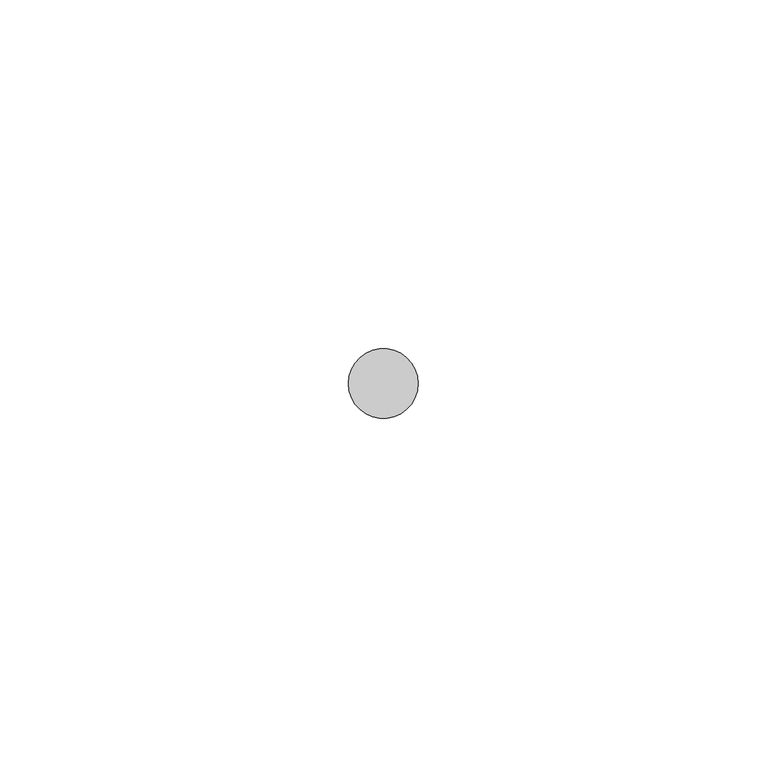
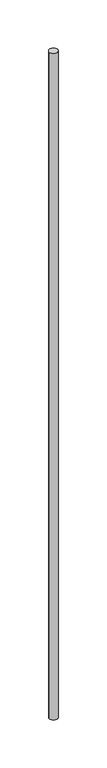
"""IFC4 building model written with IfcOpenShell, lengths in millimetres: cable carrier fitting geometry, x. Tirante para Suportes1 : Tirante para Suportes 2."""

import ifcopenshell
import ifcopenshell.guid

model = None  # the IFC model being written
_history = None  # IfcOwnerHistory: only IFC2X3 demands one
_inside = {}  # id of a spatial element -> (the spatial element, [elements in it])
_under = {}  # id of a project, library or spatial element -> (it, [spatial elements below it])
_declared = {}  # id of a project -> (the project, [libraries it declares])
_typed = {}  # id of a type object -> (the type object, [elements of that type])
_made_of = {}  # id of a material, layer set ... -> (it, [elements and type objects made of it])


def new_model(schema):
    """Start an empty IFC model of exactly this schema.

    Asked for "IFC4X3", IfcOpenShell would pick the latest addendum, in which some entities
    have other attributes; the version numbers below select the first issue.
    IFC2X3 requires an IfcOwnerHistory on every rooted entity: one is made here for all.
    """
    global model, _history
    if schema == "IFC4X3":
        model = ifcopenshell.file(schema_version=(4, 3, 0, 0))
    else:
        model = ifcopenshell.file(schema=schema)
    _inside.clear()
    _under.clear()
    _declared.clear()
    _typed.clear()
    _made_of.clear()
    _history = None
    if model.schema == "IFC2X3":
        org = make("IfcOrganization", Name="unknown")
        user = make(
            "IfcPersonAndOrganization",
            ThePerson=make("IfcPerson", FamilyName="unknown"),
            TheOrganization=org,
        )
        app = make(
            "IfcApplication",
            ApplicationDeveloper=org,
            Version="unknown",
            ApplicationFullName="unknown",
            ApplicationIdentifier="unknown",
        )
        _history = make(
            "IfcOwnerHistory",
            OwningUser=user,
            OwningApplication=app,
            ChangeAction="ADDED",
            CreationDate=0,
        )
    return model


def make(cls, **values):
    """One entity of the class cls with the attributes given. An attribute that is None is left unset."""
    return model.create_entity(
        cls, **{name: value for name, value in values.items() if value is not None}
    )


def rooted(cls, **values):
    """An entity with a GlobalId (a new one), such as an element, a storey or a relation."""
    return make(cls, GlobalId=ifcopenshell.guid.new(), OwnerHistory=_history, **values)


def si_unit(unit_type, name, prefix=None):
    """IfcSIUnit, for example si_unit("LENGTHUNIT", "METRE", prefix="MILLI")."""
    return make("IfcSIUnit", UnitType=unit_type, Prefix=prefix, Name=name)


def assignment(units):
    """IfcUnitAssignment: the units of a project."""
    return None if units is None else make("IfcUnitAssignment", Units=units)


def point(xyz):
    """IfcCartesianPoint."""
    return None if xyz is None else make("IfcCartesianPoint", Coordinates=xyz)


def direction(xyz):
    """IfcDirection."""
    return None if xyz is None else make("IfcDirection", DirectionRatios=xyz)


def frame(location, z_axis=None, x_axis=None):
    """IfcAxis2Placement3D, a coordinate frame: its origin and axes. An axis left out is left unset."""
    return make(
        "IfcAxis2Placement3D",
        Location=point(location),
        Axis=direction(z_axis),
        RefDirection=direction(x_axis),
    )


def frame_2d(location, x_axis=None):
    """IfcAxis2Placement2D, a coordinate frame in the plane: its origin and x axis."""
    return make(
        "IfcAxis2Placement2D", Location=point(location), RefDirection=direction(x_axis)
    )


def origin():
    """The frame at (0, 0, 0) with its axes left unset."""
    return frame((0.0, 0.0, 0.0))


def origin_with_axes():
    """The frame at (0, 0, 0) with the z axis (0, 0, 1) and the x axis (1, 0, 0) written out."""
    return frame((0.0, 0.0, 0.0), z_axis=(0.0, 0.0, 1.0), x_axis=(1.0, 0.0, 0.0))


def origin_2d():
    """The frame at (0, 0) in the plane with its x axis left unset."""
    return frame_2d((0.0, 0.0))


def place(relative_to, where):
    """IfcLocalPlacement: puts the frame where relative to a parent placement (None: the world)."""
    return make(
        "IfcLocalPlacement", PlacementRelTo=relative_to, RelativePlacement=where
    )


def context(
    kind, dimensions, precision=None, world=None, true_north=None, identifier=None
):
    """IfcGeometricRepresentationContext, for example the 3D "Model" context."""
    return make(
        "IfcGeometricRepresentationContext",
        ContextIdentifier=identifier,
        ContextType=kind,
        CoordinateSpaceDimension=dimensions,
        Precision=precision,
        WorldCoordinateSystem=world,
        TrueNorth=true_north,
    )


def project(units=None, contexts=None):
    """IfcProject with its units and contexts."""
    return rooted(
        "IfcProject",
        Name="project",
        RepresentationContexts=contexts,
        UnitsInContext=assignment(units),
    )


def spatial(cls, under=None, at=None, **own):
    """A site, building, storey or space (cls), placed at a placement, below another one or the project."""
    s = rooted(cls, ObjectPlacement=at, **own)
    if under is not None:
        _under.setdefault(under.id(), (under, []))[1].append(s)
    return s


def circle_curve(where, radius):
    """IfcCircle in the frame where."""
    return make("IfcCircle", Position=where, Radius=radius)


def trimmed(basis, trim1, trim2, sense, master):
    """IfcTrimmedCurve: the piece of a basis curve between two trims."""
    return make(
        "IfcTrimmedCurve",
        BasisCurve=basis,
        Trim1=trim1,
        Trim2=trim2,
        SenseAgreement=sense,
        MasterRepresentation=master,
    )


def segment(curve, same_sense, transition):
    """IfcCompositeCurveSegment."""
    return make(
        "IfcCompositeCurveSegment",
        Transition=transition,
        SameSense=same_sense,
        ParentCurve=curve,
    )


def composite_curve(segments, self_intersect=None):
    """IfcCompositeCurve: segments joined end to end."""
    return make("IfcCompositeCurve", Segments=segments, SelfIntersect=self_intersect)


def outline(outer, holes=None, kind="AREA"):
    """IfcArbitraryClosedProfileDef: a profile drawn as a closed curve; with holes, ...WithVoids."""
    if holes is None:
        return make("IfcArbitraryClosedProfileDef", ProfileType=kind, OuterCurve=outer)
    return make(
        "IfcArbitraryProfileDefWithVoids",
        ProfileType=kind,
        OuterCurve=outer,
        InnerCurves=holes,
    )


def extrude(swept, where, along, depth):
    """IfcExtrudedAreaSolid: the profile swept, set in the frame where, extruded along a direction by depth."""
    return make(
        "IfcExtrudedAreaSolid",
        SweptArea=swept,
        Position=where,
        ExtrudedDirection=direction(along),
        Depth=depth,
    )


def shape(context_of_items, identifier, shape_type, items):
    """IfcShapeRepresentation: the items that make up one representation, for example the "Body"."""
    return make(
        "IfcShapeRepresentation",
        ContextOfItems=context_of_items,
        RepresentationIdentifier=identifier,
        RepresentationType=shape_type,
        Items=items,
    )


def source(mapping_origin, context_of_items, identifier, shape_type, items):
    """IfcRepresentationMap: a shape defined once, which mapped items show again and again."""
    return make(
        "IfcRepresentationMap",
        MappingOrigin=mapping_origin,
        MappedRepresentation=shape(context_of_items, identifier, shape_type, items),
    )


def transform(
    local_origin,
    x_axis=None,
    y_axis=None,
    z_axis=None,
    scale=None,
    scale2=None,
    scale3=None,
    uniform=True,
):
    """IfcCartesianTransformationOperator3D, or its non-uniform kind. x_axis, y_axis, z_axis: its Axis1, 2, 3."""
    if uniform:
        return make(
            "IfcCartesianTransformationOperator3D",
            Axis1=direction(x_axis),
            Axis2=direction(y_axis),
            LocalOrigin=point(local_origin),
            Scale=scale,
            Axis3=direction(z_axis),
        )
    return make(
        "IfcCartesianTransformationOperator3DnonUniform",
        Axis1=direction(x_axis),
        Axis2=direction(y_axis),
        LocalOrigin=point(local_origin),
        Scale=scale,
        Axis3=direction(z_axis),
        Scale2=scale2,
        Scale3=scale3,
    )


def mapped(mapping_source, mapping_target):
    """IfcMappedItem: shows the shape of a source again, moved by a transform."""
    return make(
        "IfcMappedItem", MappingSource=mapping_source, MappingTarget=mapping_target
    )


def made_of(thing, what):
    """Note that an element or type object is made of a material, layer set ...; save() writes the relation."""
    if what is not None:
        _made_of.setdefault(what.id(), (what, []))[1].append(thing)
    return thing


def element(
    cls,
    number,
    at=None,
    inside=None,
    cuts=None,
    type_object=None,
    material=None,
    context=None,
    identifier="Body",
    shape_type=None,
    held_by="IfcProductDefinitionShape",
    body=None,
    shapes=None,
    **own,
):
    """One element of the class cls, such as IfcWall. Its Tag is "e" and its number.

    at: its placement. inside: the storey or other place that contains it. cuts: it is an
    opening in that element (IfcRelVoidsElement). A single representation is given by context,
    identifier, shape_type and body (its items); several are given by shapes. held_by: the class
    of the entity that holds the representations. save() writes the other relations.
    """
    e = rooted(cls, Tag="e%d" % number, ObjectPlacement=at, **own)
    if body is not None:
        shapes = [shape(context, identifier, shape_type, body)]
    if shapes is not None:
        e.Representation = make(held_by, Representations=shapes)
    if inside is not None:
        _inside.setdefault(inside.id(), (inside, []))[1].append(e)
    if cuts is not None:
        rooted(
            "IfcRelVoidsElement", RelatingBuildingElement=cuts, RelatedOpeningElement=e
        )
    if type_object is not None:
        _typed.setdefault(type_object.id(), (type_object, []))[1].append(e)
    return made_of(e, material)


def aggregate(whole, parts):
    """IfcRelAggregates: a whole, such as a stair, and the parts it consists of."""
    return rooted("IfcRelAggregates", RelatingObject=whole, RelatedObjects=parts)


def save(model, path):
    """Write the relations noted so far, then the file.

    IfcRelAggregates (storeys below a building ...), IfcRelContainedInSpatialStructure (elements
    in a storey), IfcRelDefinesByType, IfcRelAssociatesMaterial and IfcRelDeclares: one each for
    every whole, place, type object, material and project.
    """
    for whole, parts in _under.values():
        aggregate(whole, parts)
    for where, things in _inside.values():
        rooted(
            "IfcRelContainedInSpatialStructure",
            RelatedElements=things,
            RelatingStructure=where,
        )
    for kind, things in _typed.values():
        rooted("IfcRelDefinesByType", RelatedObjects=things, RelatingType=kind)
    for what, things in _made_of.values():
        rooted("IfcRelAssociatesMaterial", RelatedObjects=things, RelatingMaterial=what)
    for by, libraries in _declared.values():
        rooted("IfcRelDeclares", RelatingContext=by, RelatedDefinitions=libraries)
    model.write(path)


def cable_carrier_fitting_428843c3(model_context):
    return source(origin(), model_context, "Body", "SweptSolid", [
        extrude(outline(composite_curve([segment(trimmed(circle_curve(origin_2d(), 5.0), [point((-5.0, 0.0))], [point((5.0, 0.0))], False, "CARTESIAN"), True, "CONTINUOUS"), segment(trimmed(circle_curve(origin_2d(), 5.0), [point((5.0, 0.0))], [point((-5.0, 0.0))], False, "CARTESIAN"), True, "CONTINUOUS")], self_intersect=False)), origin_with_axes(), (0.0, 0.0, 1.0), 865.2393927),
    ])


if __name__ == "__main__":
    model = new_model("IFC4")
    model_context = context("Model", 3, world=origin())
    ifc_project = project(units=[si_unit("LENGTHUNIT", "METRE", prefix="MILLI")], contexts=[model_context])
    site = spatial("IfcSite", under=ifc_project)
    building = spatial("IfcBuilding", under=site)
    placement = place(None, origin())
    cable_carrier_fitting_shape = cable_carrier_fitting_428843c3(model_context)
    element("IfcCableCarrierFitting", 1, ObjectType="x. Tirante para Suportes1 : Tirante para Suportes 2", at=placement, inside=building, context=model_context, shape_type="MappedRepresentation", body=[
        mapped(cable_carrier_fitting_shape, transform((0.0, 0.0, 0.0), x_axis=(1.0, 0.0, 0.0), y_axis=(0.0, 1.0, 0.0), z_axis=(0.0, 0.0, 1.0))),
    ])
    save(model, "model.ifc")
